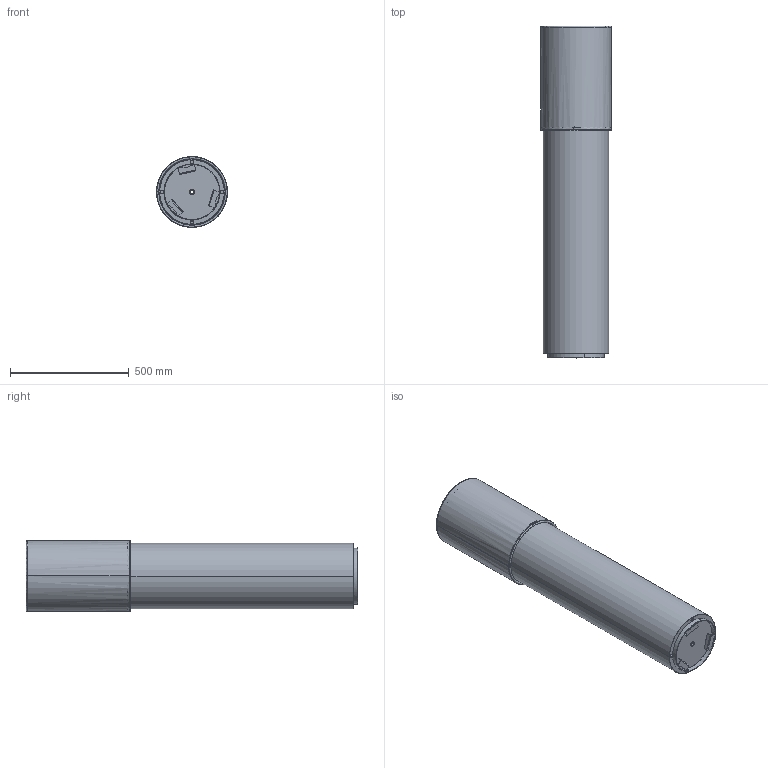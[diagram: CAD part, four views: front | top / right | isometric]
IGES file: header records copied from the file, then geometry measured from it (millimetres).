
Start section: SolidWorks IGES file using analytic representation for surfaces
Global section: file name: \\UTENTI\Dati Utenti\Tecnico\DC\2D - 3D per sito\3D\DeCastelli-3D-Phil 44.igs; native system: SolidWorks 2022; preprocessor: SolidWorks 2022; author: maria; date: 240725.084325; units: millimetre
Bounding box: 298.99 x 1400 x 298.99 mm (x, y, z)
Surface area: 2813294.8 mm2 (no closed solid volume)
Topology: 0 solids, 0 shells, 94 faces, 1922 edges, 1922 vertices
Faces by surface type: bspline 53, revolution 41
